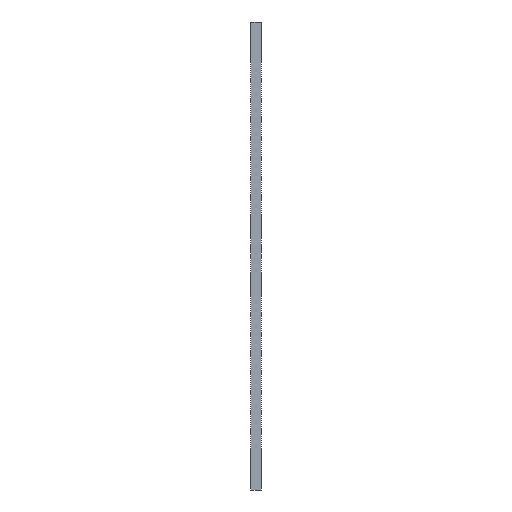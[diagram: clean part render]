
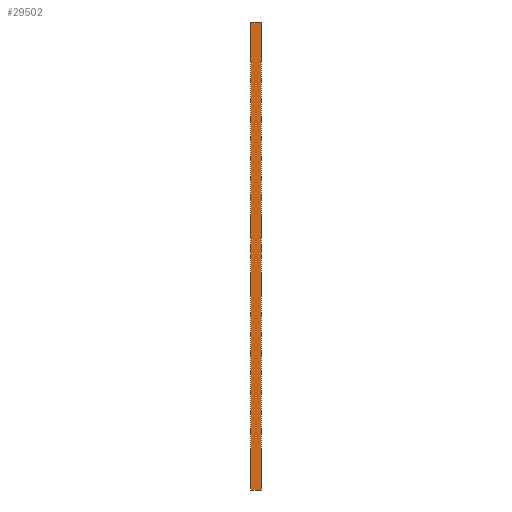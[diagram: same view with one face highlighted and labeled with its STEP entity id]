
A CAD part, left-side view. The second image highlights one B-rep face of the part: STEP entity #29502.
In plain terms, the highlighted planar face has unit normal (-1, 0, 0).
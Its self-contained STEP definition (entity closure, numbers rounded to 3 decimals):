
#1894 = EDGE_LOOP ( 'NONE', ( #4478, #7885, #44140, #21372 ) ) ;
#2184 = VECTOR ( 'NONE', #7489, 1000. ) ;
#2698 = LINE ( 'NONE', #9138, #15583 ) ;
#3640 = DIRECTION ( 'NONE',  ( 0., 0., -1. ) ) ;
#4478 = ORIENTED_EDGE ( 'NONE', *, *, #19997, .T. ) ;
#4725 = CARTESIAN_POINT ( 'NONE',  ( -300., 0., -300. ) ) ;
#6396 = PLANE ( 'NONE',  #26364 ) ;
#7301 = VERTEX_POINT ( 'NONE', #15561 ) ;
#7489 = DIRECTION ( 'NONE',  ( 0., -1., 0. ) ) ;
#7885 = ORIENTED_EDGE ( 'NONE', *, *, #13575, .F. ) ;
#8377 = VECTOR ( 'NONE', #8531, 1000. ) ;
#8531 = DIRECTION ( 'NONE',  ( 0., -1., 0. ) ) ;
#8858 = EDGE_CURVE ( 'NONE', #38174, #7301, #35475, .T. ) ;
#9138 = CARTESIAN_POINT ( 'NONE',  ( -300., 13., -300. ) ) ;
#11840 = DIRECTION ( 'NONE',  ( 0., 0., 1. ) ) ;
#13575 = EDGE_CURVE ( 'NONE', #35186, #42819, #18636, .T. ) ;
#15561 = CARTESIAN_POINT ( 'NONE',  ( -300., 0., -300. ) ) ;
#15583 = VECTOR ( 'NONE', #20391, 1000. ) ;
#16742 = CARTESIAN_POINT ( 'NONE',  ( -300., 13., -300. ) ) ;
#18636 = LINE ( 'NONE', #39949, #8377 ) ;
#19997 = EDGE_CURVE ( 'NONE', #7301, #42819, #29515, .T. ) ;
#20391 = DIRECTION ( 'NONE',  ( 0., 0., 1. ) ) ;
#21372 = ORIENTED_EDGE ( 'NONE', *, *, #8858, .T. ) ;
#26364 = AXIS2_PLACEMENT_3D ( 'NONE', #16742, #41701, #3640 ) ;
#27745 = FACE_OUTER_BOUND ( 'NONE', #1894, .T. ) ;
#29502 = ADVANCED_FACE ( 'NONE', ( #27745 ), #6396, .F. ) ;
#29515 = LINE ( 'NONE', #4725, #30119 ) ;
#30119 = VECTOR ( 'NONE', #11840, 1000. ) ;
#31364 = EDGE_CURVE ( 'NONE', #38174, #35186, #2698, .T. ) ;
#35186 = VERTEX_POINT ( 'NONE', #41501 ) ;
#35256 = CARTESIAN_POINT ( 'NONE',  ( -300., 13., -300. ) ) ;
#35475 = LINE ( 'NONE', #35256, #2184 ) ;
#37679 = CARTESIAN_POINT ( 'NONE',  ( -300., 13., -300. ) ) ;
#38174 = VERTEX_POINT ( 'NONE', #37679 ) ;
#39949 = CARTESIAN_POINT ( 'NONE',  ( -300., 13., 300. ) ) ;
#41501 = CARTESIAN_POINT ( 'NONE',  ( -300., 13., 300. ) ) ;
#41701 = DIRECTION ( 'NONE',  ( 1., 0., 0. ) ) ;
#42819 = VERTEX_POINT ( 'NONE', #42986 ) ;
#42986 = CARTESIAN_POINT ( 'NONE',  ( -300., 0., 300. ) ) ;
#44140 = ORIENTED_EDGE ( 'NONE', *, *, #31364, .F. ) ;
